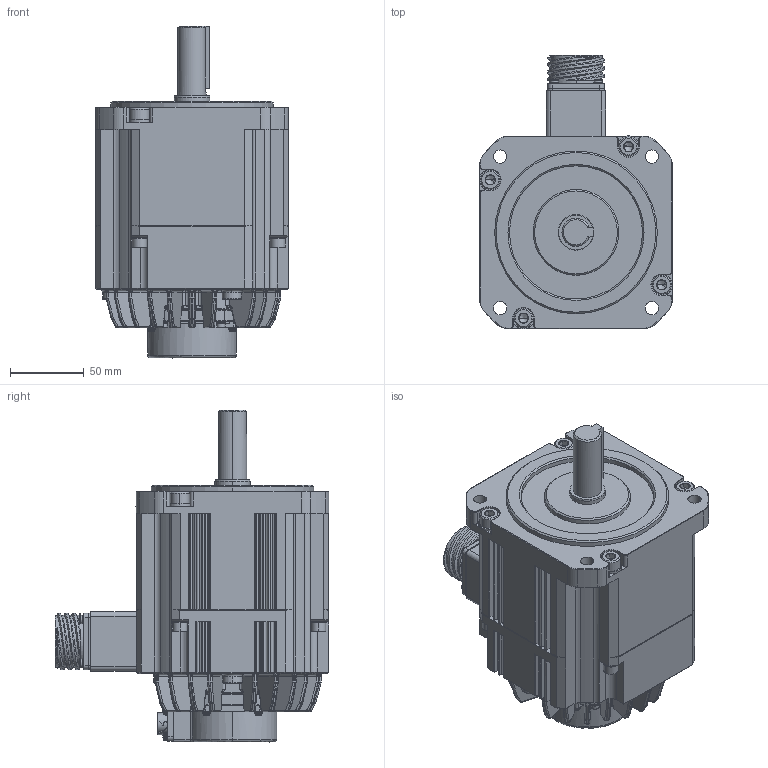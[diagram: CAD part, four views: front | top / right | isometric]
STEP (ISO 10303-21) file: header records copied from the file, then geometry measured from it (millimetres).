
FILE_DESCRIPTION (( 'STEP AP203' ), '1' );
FILE_NAME ('TSM3563N7373E721‘•”z.STEP', '2018-06-25T03:30:41', ( '' ), ( '' ), 'SwSTEP 2.0', 'SolidWorks 2017', '' );
FILE_SCHEMA (( 'CONFIG_CONTROL_DESIGN' ));
Length unit declared in the file: millimetre
Products named in the file (2): Part28^TSM3563N7373E721装配; TSM3563N7373E721装配
Assembly tree (1 placements, depth 2):
  TSM3563N7373E721装配
    Part28^TSM3563N7373E721装配
Bounding box: 130.5 x 185.2 x 224.5 mm (x, y, z)
Volume: 2101696.2 mm3; surface area: 162153 mm2
Topology: 1 solids, 23 shells, 3256 faces, 8257 edges, 5038 vertices
Faces by surface type: plane 1058, cylinder 1039, bspline 777, cone 260, sphere 69, torus 53
Entity records: 160367 total; most frequent: CARTESIAN_POINT 89478, ORIENTED_EDGE 16236, DIRECTION 12379, EDGE_CURVE 8118, VERTEX_POINT 5016, AXIS2_PLACEMENT_3D 4334, VECTOR 3711, LINE 3711
